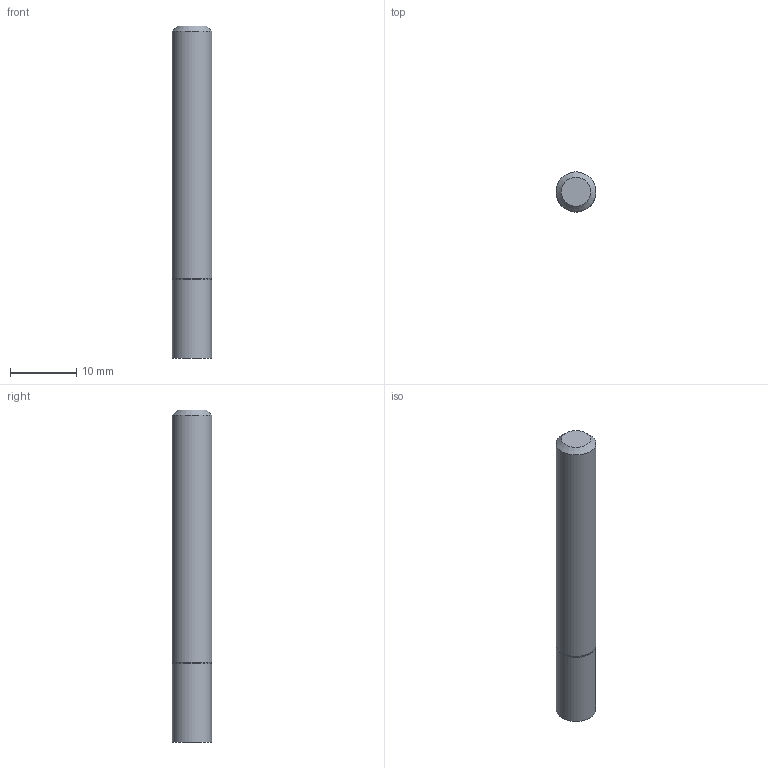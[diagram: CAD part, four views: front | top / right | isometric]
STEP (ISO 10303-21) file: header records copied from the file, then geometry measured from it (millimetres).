
FILE_DESCRIPTION((''),'2;1');
FILE_NAME('C:\Users\nsx150\AppData\Local\Temp\Mastercam 2021\E36A1X9CCL\TEMP.step','2023-04-21T15:13:18',(''),(''),'STEP Write','Mastercam 2021 ... CNC Software, Inc.','');
FILE_SCHEMA(('AUTOMOTIVE_DESIGN'));
Length unit declared in the file: millimetre
Products named in the file (1): None
Bounding box: 6 x 6 x 50 mm (x, y, z)
Volume: 1397.1 mm3; surface area: 1039.5 mm2
Topology: 2 solids, 2 shells, 8 faces, 10 edges, 6 vertices
Faces by surface type: plane 4, cylinder 2, cone 2
Full cylindrical faces by diameter (mm): 5.9 x1, 6 x1
Entity records: 190 total; most frequent: DIRECTION 32, CARTESIAN_POINT 22, AXIS2_PLACEMENT_3D 16, ORIENTED_EDGE 12, EDGE_LOOP 12, STYLED_ITEM 11, ADVANCED_FACE 8, VERTEX_POINT 6
